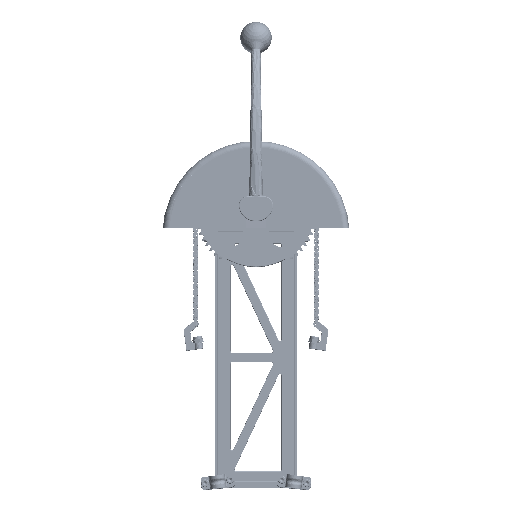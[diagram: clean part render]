
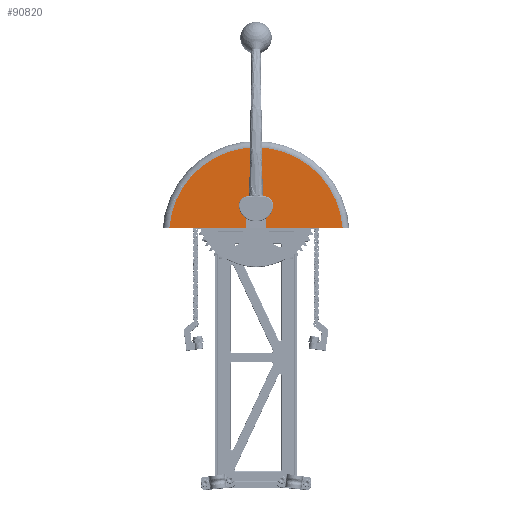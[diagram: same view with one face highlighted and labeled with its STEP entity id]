
A CAD part, top view. The second image highlights one B-rep face of the part: STEP entity #90820.
In plain terms, the highlighted planar face has unit normal (0, 0, 1).
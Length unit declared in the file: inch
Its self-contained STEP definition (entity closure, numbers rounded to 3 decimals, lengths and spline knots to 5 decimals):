
#1434 = EDGE_CURVE ( 'NONE', #58955, #193153, #201872, .T. ) ;
#3746 = CARTESIAN_POINT ( 'NONE',  ( 0., -0.25, 2.3 ) ) ;
#8036 = CARTESIAN_POINT ( 'NONE',  ( -0.41, 0.75, 2.3 ) ) ;
#13282 = VERTEX_POINT ( 'NONE', #108231 ) ;
#14216 = ORIENTED_EDGE ( 'NONE', *, *, #176547, .F. ) ;
#19209 = VERTEX_POINT ( 'NONE', #8036 ) ;
#20105 = ORIENTED_EDGE ( 'NONE', *, *, #141962, .F. ) ;
#21437 = DIRECTION ( 'NONE',  ( 0., -1., 0. ) ) ;
#21466 = AXIS2_PLACEMENT_3D ( 'NONE', #42548, #39377, #74192 ) ;
#28313 = CARTESIAN_POINT ( 'NONE',  ( -3.66649, 0., 2.3 ) ) ;
#30254 = VERTEX_POINT ( 'NONE', #101519 ) ;
#39377 = DIRECTION ( 'NONE',  ( 0., 0., 1. ) ) ;
#40200 = CARTESIAN_POINT ( 'NONE',  ( -3.41586, 0., 2.3 ) ) ;
#42548 = CARTESIAN_POINT ( 'NONE',  ( 0., 0.75, 2.3 ) ) ;
#44014 = CARTESIAN_POINT ( 'NONE',  ( 0.41, 0., 2.3 ) ) ;
#52854 = CARTESIAN_POINT ( 'NONE',  ( 3.41586, 0., 2.3 ) ) ;
#58955 = VERTEX_POINT ( 'NONE', #52854 ) ;
#65771 = DIRECTION ( 'NONE',  ( 0., 1., 0. ) ) ;
#68233 = DIRECTION ( 'NONE',  ( 0., 0., -1. ) ) ;
#74192 = DIRECTION ( 'NONE',  ( 1., 0., 0. ) ) ;
#76199 = EDGE_LOOP ( 'NONE', ( #14216, #185645, #141749, #178526, #180530, #20105 ) ) ;
#81347 = CARTESIAN_POINT ( 'NONE',  ( 0., -0.25, 2.3 ) ) ;
#90820 = ADVANCED_FACE ( 'NONE', ( #131838 ), #181597, .F. ) ;
#101519 = CARTESIAN_POINT ( 'NONE',  ( -0.41, 0., 2.3 ) ) ;
#105052 = CARTESIAN_POINT ( 'NONE',  ( -0.41, 0., 2.3 ) ) ;
#107042 = EDGE_CURVE ( 'NONE', #193153, #30254, #206176, .T. ) ;
#108231 = CARTESIAN_POINT ( 'NONE',  ( 0.41, 0.75, 2.3 ) ) ;
#115305 = DIRECTION ( 'NONE',  ( 0., 0., 1. ) ) ;
#124388 = LINE ( 'NONE', #44014, #175507 ) ;
#131805 = VERTEX_POINT ( 'NONE', #153226 ) ;
#131838 = FACE_OUTER_BOUND ( 'NONE', #76199, .T. ) ;
#133911 = DIRECTION ( 'NONE',  ( -1., 0., 0. ) ) ;
#136385 = CARTESIAN_POINT ( 'NONE',  ( -3.66649, 0., 2.3 ) ) ;
#141340 = VECTOR ( 'NONE', #168223, 39.37008 ) ;
#141749 = ORIENTED_EDGE ( 'NONE', *, *, #179469, .T. ) ;
#141962 = EDGE_CURVE ( 'NONE', #19209, #30254, #186576, .T. ) ;
#144437 = AXIS2_PLACEMENT_3D ( 'NONE', #81347, #115305, #163993 ) ;
#153226 = CARTESIAN_POINT ( 'NONE',  ( 0.41, 0., 2.3 ) ) ;
#155222 = VECTOR ( 'NONE', #204088, 39.37008 ) ;
#155463 = LINE ( 'NONE', #136385, #141340 ) ;
#163993 = DIRECTION ( 'NONE',  ( -1., 0., 0. ) ) ;
#168223 = DIRECTION ( 'NONE',  ( 1., 0., 0. ) ) ;
#175507 = VECTOR ( 'NONE', #65771, 39.37008 ) ;
#176547 = EDGE_CURVE ( 'NONE', #13282, #19209, #200746, .T. ) ;
#177462 = VECTOR ( 'NONE', #21437, 39.37008 ) ;
#178526 = ORIENTED_EDGE ( 'NONE', *, *, #1434, .T. ) ;
#179469 = EDGE_CURVE ( 'NONE', #131805, #58955, #155463, .T. ) ;
#180530 = ORIENTED_EDGE ( 'NONE', *, *, #107042, .T. ) ;
#181597 = PLANE ( 'NONE',  #196393 ) ;
#185645 = ORIENTED_EDGE ( 'NONE', *, *, #196451, .F. ) ;
#186576 = LINE ( 'NONE', #105052, #177462 ) ;
#193153 = VERTEX_POINT ( 'NONE', #40200 ) ;
#196393 = AXIS2_PLACEMENT_3D ( 'NONE', #3746, #68233, #133911 ) ;
#196451 = EDGE_CURVE ( 'NONE', #131805, #13282, #124388, .T. ) ;
#200746 = CIRCLE ( 'NONE', #21466, 0.41 ) ;
#201872 = CIRCLE ( 'NONE', #144437, 3.425 ) ;
#204088 = DIRECTION ( 'NONE',  ( 1., 0., 0. ) ) ;
#206176 = LINE ( 'NONE', #28313, #155222 ) ;
